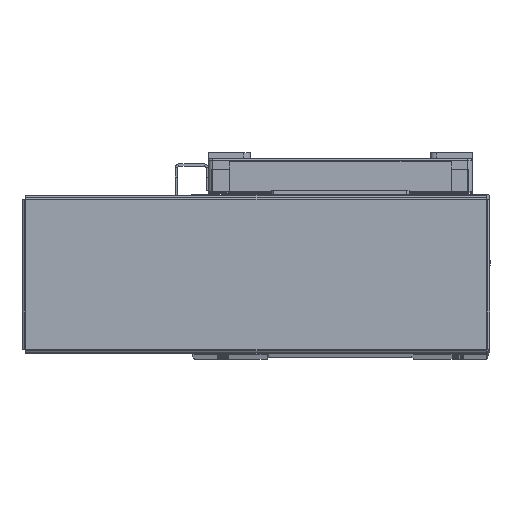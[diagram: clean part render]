
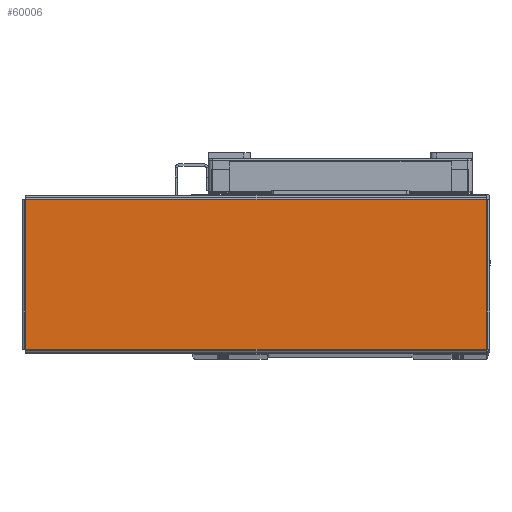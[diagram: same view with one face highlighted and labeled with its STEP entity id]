
A CAD part, top view. The second image highlights one B-rep face of the part: STEP entity #60006.
In plain terms, the highlighted planar face has unit normal (0, 0, 1) as drawn and (0, -1, 0) by its records, which use the part's own axes.
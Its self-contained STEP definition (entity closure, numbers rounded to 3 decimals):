
#1298 = EDGE_LOOP ( 'NONE', ( #16383, #16331, #16377, #16349 ) ) ;
#11705 = AXIS2_PLACEMENT_3D ( 'NONE', #50557, #50544, #50514 ) ;
#16331 = ORIENTED_EDGE ( 'NONE', *, *, #51626, .T. ) ;
#16349 = ORIENTED_EDGE ( 'NONE', *, *, #51618, .T. ) ;
#16377 = ORIENTED_EDGE ( 'NONE', *, *, #51624, .T. ) ;
#16383 = ORIENTED_EDGE ( 'NONE', *, *, #51606, .T. ) ;
#18840 = VERTEX_POINT ( 'NONE', #25890 ) ;
#19032 = VERTEX_POINT ( 'NONE', #26332 ) ;
#19140 = VERTEX_POINT ( 'NONE', #26550 ) ;
#19155 = VERTEX_POINT ( 'NONE', #26748 ) ;
#20629 = VECTOR ( 'NONE', #21791, 1000. ) ;
#20636 = LINE ( 'NONE', #21733, #20629 ) ;
#20639 = LINE ( 'NONE', #21788, #20645 ) ;
#20645 = VECTOR ( 'NONE', #21759, 1000. ) ;
#20658 = VECTOR ( 'NONE', #21876, 1000. ) ;
#20668 = LINE ( 'NONE', #21870, #20658 ) ;
#20675 = VECTOR ( 'NONE', #21823, 1000. ) ;
#20682 = LINE ( 'NONE', #21816, #20675 ) ;
#21733 = CARTESIAN_POINT ( 'NONE',  ( 103.763, -1., -33.793 ) ) ;
#21759 = DIRECTION ( 'NONE',  ( -1., 0., 0. ) ) ;
#21788 = CARTESIAN_POINT ( 'NONE',  ( 103.793, -1., 33.763 ) ) ;
#21791 = DIRECTION ( 'NONE',  ( 0., 0., 1. ) ) ;
#21816 = CARTESIAN_POINT ( 'NONE',  ( -103.793, -1., -33.763 ) ) ;
#21823 = DIRECTION ( 'NONE',  ( 1., 0., 0. ) ) ;
#21870 = CARTESIAN_POINT ( 'NONE',  ( -103.763, -1., 33.793 ) ) ;
#21876 = DIRECTION ( 'NONE',  ( 0., 0., -1. ) ) ;
#25890 = CARTESIAN_POINT ( 'NONE',  ( 103.763, -1., 33.763 ) ) ;
#26332 = CARTESIAN_POINT ( 'NONE',  ( -103.763, -1., 33.763 ) ) ;
#26550 = CARTESIAN_POINT ( 'NONE',  ( 103.763, -1., -33.763 ) ) ;
#26748 = CARTESIAN_POINT ( 'NONE',  ( -103.763, -1., -33.763 ) ) ;
#47476 = FACE_OUTER_BOUND ( 'NONE', #1298, .T. ) ;
#50514 = DIRECTION ( 'NONE',  ( 0., 0., 1. ) ) ;
#50544 = DIRECTION ( 'NONE',  ( 0., 1., 0. ) ) ;
#50557 = CARTESIAN_POINT ( 'NONE',  ( 0., -1., 0. ) ) ;
#50566 = PLANE ( 'NONE',  #11705 ) ;
#51606 = EDGE_CURVE ( 'NONE', #18840, #19032, #20639, .T. ) ;
#51618 = EDGE_CURVE ( 'NONE', #19140, #18840, #20636, .T. ) ;
#51624 = EDGE_CURVE ( 'NONE', #19155, #19140, #20682, .T. ) ;
#51626 = EDGE_CURVE ( 'NONE', #19032, #19155, #20668, .T. ) ;
#60006 = ADVANCED_FACE ( 'NONE', ( #47476 ), #50566, .F. ) ;
